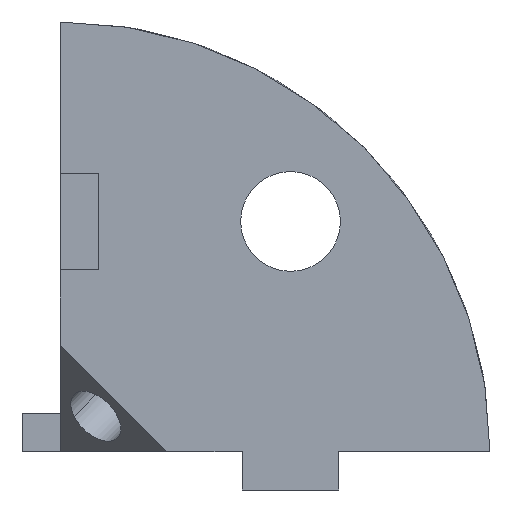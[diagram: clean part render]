
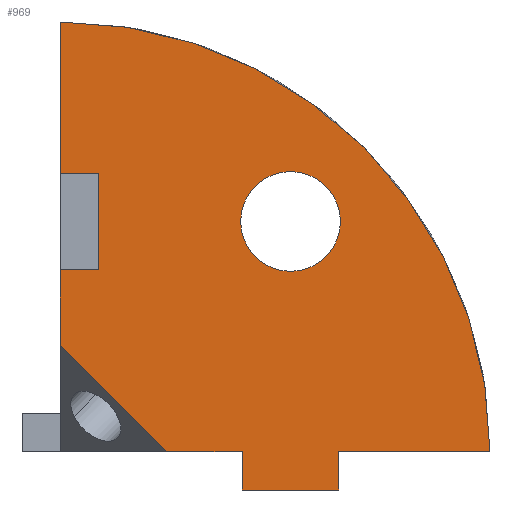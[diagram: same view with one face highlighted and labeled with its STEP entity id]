
A CAD part, front view. The second image highlights one B-rep face of the part: STEP entity #969.
In plain terms, the highlighted planar face has unit normal (0, -1, 0).
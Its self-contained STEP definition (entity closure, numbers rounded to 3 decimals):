
#3 = VERTEX_POINT ( 'NONE', #662 ) ;
#21 = CARTESIAN_POINT ( 'NONE',  ( -7.072, -14., -14. ) ) ;
#26 = CARTESIAN_POINT ( 'NONE',  ( -11.5, -14., -2.15 ) ) ;
#27 = CARTESIAN_POINT ( 'NONE',  ( -11.5, -14., 4.15 ) ) ;
#75 = CARTESIAN_POINT ( 'NONE',  ( -14., -14., 0. ) ) ;
#76 = DIRECTION ( 'NONE',  ( 0., 0., -1. ) ) ;
#83 = CARTESIAN_POINT ( 'NONE',  ( 14., -14., -14. ) ) ;
#84 = DIRECTION ( 'NONE',  ( 1., 0., 0. ) ) ;
#122 = CARTESIAN_POINT ( 'NONE',  ( 1., -14., 1. ) ) ;
#136 = CARTESIAN_POINT ( 'NONE',  ( -2.15, -14., -16.5 ) ) ;
#137 = CARTESIAN_POINT ( 'NONE',  ( 14., -14., -14. ) ) ;
#139 = CARTESIAN_POINT ( 'NONE',  ( -2.15, -14., -14. ) ) ;
#140 = CARTESIAN_POINT ( 'NONE',  ( 4.15, -14., -16.5 ) ) ;
#141 = CARTESIAN_POINT ( 'NONE',  ( 4.15, -14., -14. ) ) ;
#186 = CARTESIAN_POINT ( 'NONE',  ( -14., -14., 14. ) ) ;
#226 = FACE_OUTER_BOUND ( 'NONE', #706, .T. ) ;
#229 = FACE_BOUND ( 'NONE', #711, .T. ) ;
#234 = CARTESIAN_POINT ( 'NONE',  ( -14., -14., -2.15 ) ) ;
#257 = VERTEX_POINT ( 'NONE', #234 ) ;
#273 = CARTESIAN_POINT ( 'NONE',  ( -10.06, -14., -11.012 ) ) ;
#274 = DIRECTION ( 'NONE',  ( -0.707, 0., 0.707 ) ) ;
#277 = CARTESIAN_POINT ( 'NONE',  ( 14., -14., -14. ) ) ;
#278 = DIRECTION ( 'NONE',  ( 1., 0., 0. ) ) ;
#299 = PLANE ( 'NONE',  #1118 ) ;
#300 = CARTESIAN_POINT ( 'NONE',  ( 14., -14., 0. ) ) ;
#301 = DIRECTION ( 'NONE',  ( 0., -1., 0. ) ) ;
#302 = DIRECTION ( 'NONE',  ( 0., 0., -1. ) ) ;
#331 = CARTESIAN_POINT ( 'NONE',  ( 1., -14., 1. ) ) ;
#332 = DIRECTION ( 'NONE',  ( 0., 1., 0. ) ) ;
#333 = DIRECTION ( 'NONE',  ( 0., 0., 1. ) ) ;
#355 = LINE ( 'NONE', #686, #357 ) ;
#357 = VECTOR ( 'NONE', #687, 1000. ) ;
#358 = LINE ( 'NONE', #75, #361 ) ;
#361 = VECTOR ( 'NONE', #76, 1000. ) ;
#363 = LINE ( 'NONE', #83, #366 ) ;
#366 = VECTOR ( 'NONE', #84, 1000. ) ;
#371 = LINE ( 'NONE', #273, #374 ) ;
#374 = VECTOR ( 'NONE', #274, 1000. ) ;
#375 = VECTOR ( 'NONE', #278, 1000. ) ;
#445 = VERTEX_POINT ( 'NONE', #486 ) ;
#486 = CARTESIAN_POINT ( 'NONE',  ( 1., -14., 4.25 ) ) ;
#488 = CARTESIAN_POINT ( 'NONE',  ( -14., -14., 4.15 ) ) ;
#493 = VERTEX_POINT ( 'NONE', #488 ) ;
#497 = VERTEX_POINT ( 'NONE', #186 ) ;
#553 = CIRCLE ( 'NONE', #1052, 28. ) ;
#558 = LINE ( 'NONE', #653, #561 ) ;
#561 = VECTOR ( 'NONE', #654, 1000. ) ;
#581 = ORIENTED_EDGE ( 'NONE', *, *, #1044, .T. ) ;
#582 = ORIENTED_EDGE ( 'NONE', *, *, #1089, .T. ) ;
#583 = ORIENTED_EDGE ( 'NONE', *, *, #1096, .F. ) ;
#584 = ORIENTED_EDGE ( 'NONE', *, *, #1092, .T. ) ;
#585 = ORIENTED_EDGE ( 'NONE', *, *, #1185, .T. ) ;
#586 = ORIENTED_EDGE ( 'NONE', *, *, #1144, .T. ) ;
#587 = ORIENTED_EDGE ( 'NONE', *, *, #1169, .T. ) ;
#588 = ORIENTED_EDGE ( 'NONE', *, *, #1098, .T. ) ;
#589 = ORIENTED_EDGE ( 'NONE', *, *, #1180, .T. ) ;
#591 = VERTEX_POINT ( 'NONE', #21 ) ;
#641 = CARTESIAN_POINT ( 'NONE',  ( -14., -14., -14. ) ) ;
#642 = DIRECTION ( 'NONE',  ( 0., -1., 0. ) ) ;
#643 = DIRECTION ( 'NONE',  ( 0., 0., 1. ) ) ;
#647 = CARTESIAN_POINT ( 'NONE',  ( -2.25, -14., 1. ) ) ;
#653 = CARTESIAN_POINT ( 'NONE',  ( -2.15, -14., 0. ) ) ;
#654 = DIRECTION ( 'NONE',  ( 0., 0., -1. ) ) ;
#662 = CARTESIAN_POINT ( 'NONE',  ( -14., -14., -7.072 ) ) ;
#686 = CARTESIAN_POINT ( 'NONE',  ( -14., -14., 0. ) ) ;
#687 = DIRECTION ( 'NONE',  ( 0., 0., -1. ) ) ;
#706 = EDGE_LOOP ( 'NONE', ( #581, #582, #583, #584, #585, #586, #587, #588, #589, #1223, #1224, #1225 ) ) ;
#711 = EDGE_LOOP ( 'NONE', ( #1226, #1227, #1228 ) ) ;
#718 = CARTESIAN_POINT ( 'NONE',  ( 1., -14., 1. ) ) ;
#719 = DIRECTION ( 'NONE',  ( 0., 1., 0. ) ) ;
#720 = DIRECTION ( 'NONE',  ( 0., 0., 1. ) ) ;
#721 = CARTESIAN_POINT ( 'NONE',  ( 14., -14., -16.5 ) ) ;
#722 = DIRECTION ( 'NONE',  ( 1., 0., 0. ) ) ;
#727 = CARTESIAN_POINT ( 'NONE',  ( -11.5, -14., -2.15 ) ) ;
#728 = DIRECTION ( 'NONE',  ( 0., 0., -1. ) ) ;
#753 = VERTEX_POINT ( 'NONE', #27 ) ;
#756 = VERTEX_POINT ( 'NONE', #26 ) ;
#820 = LINE ( 'NONE', #916, #837 ) ;
#828 = CIRCLE ( 'NONE', #1127, 3.25 ) ;
#833 = LINE ( 'NONE', #917, #835 ) ;
#835 = VECTOR ( 'NONE', #921, 1000. ) ;
#837 = VECTOR ( 'NONE', #922, 1000. ) ;
#841 = LINE ( 'NONE', #277, #375 ) ;
#847 = CIRCLE ( 'NONE', #1032, 3.25 ) ;
#883 = LINE ( 'NONE', #1288, #886 ) ;
#886 = VECTOR ( 'NONE', #1289, 1000. ) ;
#894 = DIRECTION ( 'NONE',  ( 0., 1., 0. ) ) ;
#895 = DIRECTION ( 'NONE',  ( 0., 0., 1. ) ) ;
#910 = VERTEX_POINT ( 'NONE', #988 ) ;
#916 = CARTESIAN_POINT ( 'NONE',  ( -14., -14., 4.15 ) ) ;
#917 = CARTESIAN_POINT ( 'NONE',  ( -14., -14., -2.15 ) ) ;
#921 = DIRECTION ( 'NONE',  ( -1., 0., 0. ) ) ;
#922 = DIRECTION ( 'NONE',  ( 1., 0., 0. ) ) ;
#969 = ADVANCED_FACE ( 'NONE', ( #226, #229 ), #299, .T. ) ;
#988 = CARTESIAN_POINT ( 'NONE',  ( 4.25, -14., 1. ) ) ;
#994 = EDGE_CURVE ( 'NONE', #910, #1213, #828, .T. ) ;
#1032 = AXIS2_PLACEMENT_3D ( 'NONE', #331, #332, #333 ) ;
#1044 = EDGE_CURVE ( 'NONE', #756, #257, #833, .T. ) ;
#1045 = EDGE_CURVE ( 'NONE', #493, #753, #820, .T. ) ;
#1052 = AXIS2_PLACEMENT_3D ( 'NONE', #641, #642, #643 ) ;
#1053 = AXIS2_PLACEMENT_3D ( 'NONE', #718, #719, #720 ) ;
#1073 = EDGE_CURVE ( 'NONE', #1213, #445, #847, .T. ) ;
#1085 = EDGE_CURVE ( 'NONE', #497, #493, #355, .T. ) ;
#1089 = EDGE_CURVE ( 'NONE', #257, #3, #358, .T. ) ;
#1092 = EDGE_CURVE ( 'NONE', #591, #1208, #363, .T. ) ;
#1096 = EDGE_CURVE ( 'NONE', #591, #3, #371, .T. ) ;
#1098 = EDGE_CURVE ( 'NONE', #1211, #1206, #841, .T. ) ;
#1118 = AXIS2_PLACEMENT_3D ( 'NONE', #300, #301, #302 ) ;
#1127 = AXIS2_PLACEMENT_3D ( 'NONE', #122, #894, #895 ) ;
#1142 = EDGE_CURVE ( 'NONE', #445, #910, #1256, .T. ) ;
#1144 = EDGE_CURVE ( 'NONE', #1210, #1209, #1262, .T. ) ;
#1147 = EDGE_CURVE ( 'NONE', #753, #756, #1268, .T. ) ;
#1169 = EDGE_CURVE ( 'NONE', #1209, #1211, #883, .T. ) ;
#1180 = EDGE_CURVE ( 'NONE', #1206, #497, #553, .T. ) ;
#1185 = EDGE_CURVE ( 'NONE', #1208, #1210, #558, .T. ) ;
#1206 = VERTEX_POINT ( 'NONE', #137 ) ;
#1208 = VERTEX_POINT ( 'NONE', #139 ) ;
#1209 = VERTEX_POINT ( 'NONE', #140 ) ;
#1210 = VERTEX_POINT ( 'NONE', #136 ) ;
#1211 = VERTEX_POINT ( 'NONE', #141 ) ;
#1213 = VERTEX_POINT ( 'NONE', #647 ) ;
#1223 = ORIENTED_EDGE ( 'NONE', *, *, #1085, .T. ) ;
#1224 = ORIENTED_EDGE ( 'NONE', *, *, #1045, .T. ) ;
#1225 = ORIENTED_EDGE ( 'NONE', *, *, #1147, .T. ) ;
#1226 = ORIENTED_EDGE ( 'NONE', *, *, #994, .T. ) ;
#1227 = ORIENTED_EDGE ( 'NONE', *, *, #1073, .T. ) ;
#1228 = ORIENTED_EDGE ( 'NONE', *, *, #1142, .T. ) ;
#1256 = CIRCLE ( 'NONE', #1053, 3.25 ) ;
#1262 = LINE ( 'NONE', #721, #1265 ) ;
#1265 = VECTOR ( 'NONE', #722, 1000. ) ;
#1268 = LINE ( 'NONE', #727, #1271 ) ;
#1271 = VECTOR ( 'NONE', #728, 1000. ) ;
#1288 = CARTESIAN_POINT ( 'NONE',  ( 4.15, -14., 0. ) ) ;
#1289 = DIRECTION ( 'NONE',  ( 0., 0., 1. ) ) ;
